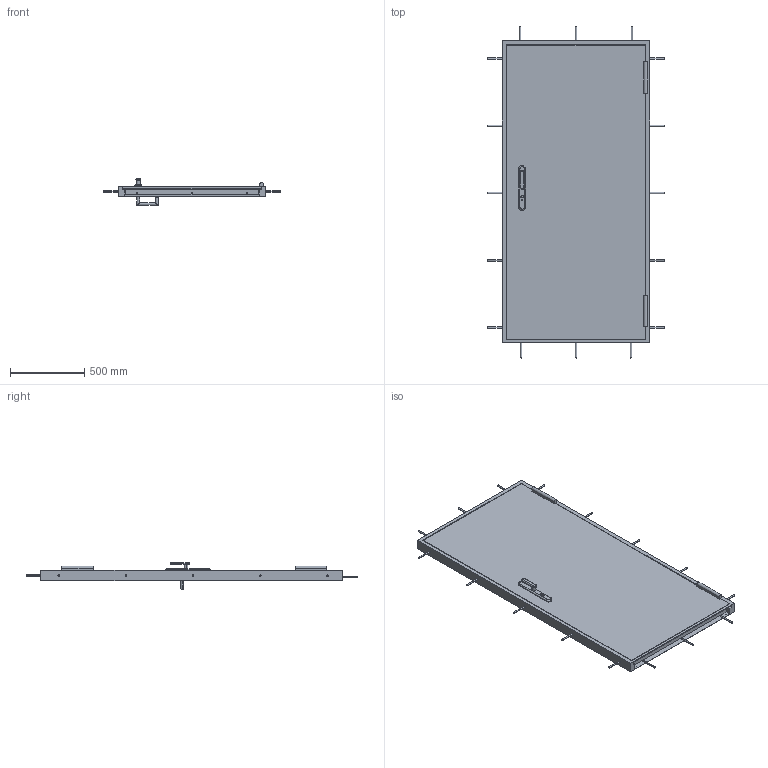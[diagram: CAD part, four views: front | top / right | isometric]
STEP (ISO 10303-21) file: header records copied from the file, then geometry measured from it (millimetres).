
FILE_DESCRIPTION((''),'2;1');
FILE_NAME('52377470','2025-04-08T12:10:08',('ged'),('HUBER SE'),'CREO PARAMETRIC BY PTC INC, 2022162','CREO PARAMETRIC BY PTC INC, 2022162','');
FILE_SCHEMA(('AUTOMOTIVE_DESIGN { 1 0 10303 214 1 1 1 1 }'));
Length unit declared in the file: millimetre
Products named in the file (1): 52377470
Bounding box: 1190 x 2232 x 181.5 mm (x, y, z)
Volume: 113240707.9 mm3; surface area: 5719359.2 mm2
Topology: 5 solids, 5 shells, 159 faces, 364 edges, 236 vertices
Faces by surface type: plane 91, cylinder 60, torus 8
Entity records: 7728 total; most frequent: CARTESIAN_POINT 1037, DIRECTION 790, ORIENTED_EDGE 728, PRESENTATION_STYLE_ASSIGNMENT 458, STYLED_ITEM 380, CURVE_STYLE 364, EDGE_CURVE 364, AXIS2_PLACEMENT_3D 279
